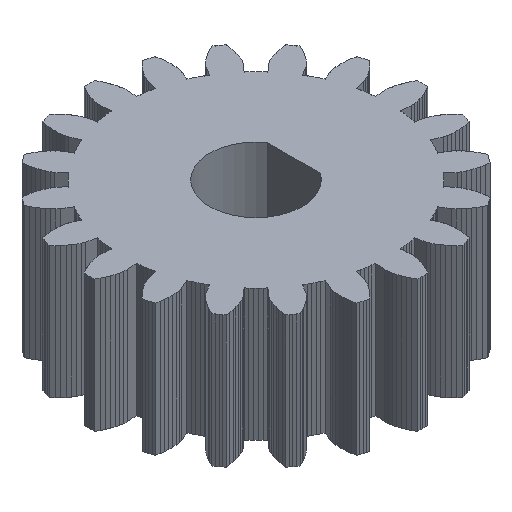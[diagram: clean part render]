
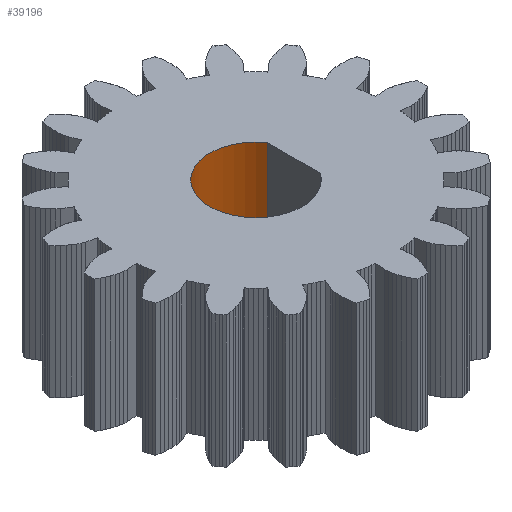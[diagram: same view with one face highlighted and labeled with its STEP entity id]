
A CAD part, isometric view. The second image highlights one B-rep face of the part: STEP entity #39196.
In plain terms, the highlighted cylindrical face has radius 3.05 mm (diameter 6.1 mm), a partial arc.
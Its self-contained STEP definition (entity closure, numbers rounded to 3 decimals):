
#72 = PLANE('',#73);
#73 = AXIS2_PLACEMENT_3D('',#74,#75,#76);
#74 = CARTESIAN_POINT('',(0.,0.,-7.4));
#75 = DIRECTION('',(0.,0.,1.));
#76 = DIRECTION('',(1.,0.,-0.));
#126 = PLANE('',#127);
#127 = AXIS2_PLACEMENT_3D('',#128,#129,#130);
#128 = CARTESIAN_POINT('',(0.,0.,-16.1)
  );
#129 = DIRECTION('',(0.,0.,1.));
#130 = DIRECTION('',(1.,0.,-0.));
#14203 = VERTEX_POINT('',#14204);
#14204 = CARTESIAN_POINT('',(2.5,1.747,-16.1));
#14205 = VERTEX_POINT('',#14206);
#14206 = CARTESIAN_POINT('',(2.5,-1.747,-16.1));
#14220 = PLANE('',#14221);
#14221 = AXIS2_PLACEMENT_3D('',#14222,#14223,#14224);
#14222 = CARTESIAN_POINT('',(2.5,-6.1,-25.3));
#14223 = DIRECTION('',(-1.,0.,0.));
#14224 = DIRECTION('',(0.,1.,0.));
#14232 = EDGE_CURVE('',#14205,#14203,#14233,.T.);
#14233 = SURFACE_CURVE('',#14234,(#14239,#14250),.PCURVE_S1.);
#14234 = CIRCLE('',#14235,3.05);
#14235 = AXIS2_PLACEMENT_3D('',#14236,#14237,#14238);
#14236 = CARTESIAN_POINT('',(0.,0.,-16.1));
#14237 = DIRECTION('',(0.,0.,-1.));
#14238 = DIRECTION('',(1.,0.,0.));
#14239 = PCURVE('',#126,#14240);
#14240 = DEFINITIONAL_REPRESENTATION('',(#14241),#14249);
#14241 = ( BOUNDED_CURVE() B_SPLINE_CURVE(2,(#14242,#14243,#14244,#14245
    ,#14246,#14247,#14248),.UNSPECIFIED.,.T.,.F.) 
B_SPLINE_CURVE_WITH_KNOTS((1,2,2,2,2,1),(-2.094,0.,
    2.094,4.189,6.283,8.378),
.UNSPECIFIED.) CURVE() GEOMETRIC_REPRESENTATION_ITEM() 
RATIONAL_B_SPLINE_CURVE((1.,0.5,1.,0.5,1.,0.5,1.)) REPRESENTATION_ITEM(
  '') );
#14242 = CARTESIAN_POINT('',(3.05,0.));
#14243 = CARTESIAN_POINT('',(3.05,-5.283));
#14244 = CARTESIAN_POINT('',(-1.525,-2.641));
#14245 = CARTESIAN_POINT('',(-6.1,0.));
#14246 = CARTESIAN_POINT('',(-1.525,2.641));
#14247 = CARTESIAN_POINT('',(3.05,5.283));
#14248 = CARTESIAN_POINT('',(3.05,0.));
#14249 = ( GEOMETRIC_REPRESENTATION_CONTEXT(2) 
PARAMETRIC_REPRESENTATION_CONTEXT() REPRESENTATION_CONTEXT('2D SPACE',''
  ) );
#14250 = PCURVE('',#14251,#14256);
#14251 = CYLINDRICAL_SURFACE('',#14252,3.05);
#14252 = AXIS2_PLACEMENT_3D('',#14253,#14254,#14255);
#14253 = CARTESIAN_POINT('',(0.,0.,-16.6));
#14254 = DIRECTION('',(-0.,-0.,-1.));
#14255 = DIRECTION('',(1.,0.,0.));
#14256 = DEFINITIONAL_REPRESENTATION('',(#14257),#14261);
#14257 = LINE('',#14258,#14259);
#14258 = CARTESIAN_POINT('',(-6.283,-0.5));
#14259 = VECTOR('',#14260,1.);
#14260 = DIRECTION('',(1.,-0.));
#14261 = ( GEOMETRIC_REPRESENTATION_CONTEXT(2) 
PARAMETRIC_REPRESENTATION_CONTEXT() REPRESENTATION_CONTEXT('2D SPACE',''
  ) );
#25701 = VERTEX_POINT('',#25702);
#25702 = CARTESIAN_POINT('',(2.5,1.747,-7.4));
#25703 = VERTEX_POINT('',#25704);
#25704 = CARTESIAN_POINT('',(2.5,-1.747,-7.4));
#25725 = EDGE_CURVE('',#25703,#25701,#25726,.T.);
#25726 = SURFACE_CURVE('',#25727,(#25732,#25743),.PCURVE_S1.);
#25727 = CIRCLE('',#25728,3.05);
#25728 = AXIS2_PLACEMENT_3D('',#25729,#25730,#25731);
#25729 = CARTESIAN_POINT('',(0.,0.,-7.4));
#25730 = DIRECTION('',(0.,0.,-1.));
#25731 = DIRECTION('',(1.,0.,0.));
#25732 = PCURVE('',#72,#25733);
#25733 = DEFINITIONAL_REPRESENTATION('',(#25734),#25742);
#25734 = ( BOUNDED_CURVE() B_SPLINE_CURVE(2,(#25735,#25736,#25737,#25738
    ,#25739,#25740,#25741),.UNSPECIFIED.,.T.,.F.) 
B_SPLINE_CURVE_WITH_KNOTS((1,2,2,2,2,1),(-2.094,0.,
    2.094,4.189,6.283,8.378),
.UNSPECIFIED.) CURVE() GEOMETRIC_REPRESENTATION_ITEM() 
RATIONAL_B_SPLINE_CURVE((1.,0.5,1.,0.5,1.,0.5,1.)) REPRESENTATION_ITEM(
  '') );
#25735 = CARTESIAN_POINT('',(3.05,0.));
#25736 = CARTESIAN_POINT('',(3.05,-5.283));
#25737 = CARTESIAN_POINT('',(-1.525,-2.641));
#25738 = CARTESIAN_POINT('',(-6.1,0.));
#25739 = CARTESIAN_POINT('',(-1.525,2.641));
#25740 = CARTESIAN_POINT('',(3.05,5.283));
#25741 = CARTESIAN_POINT('',(3.05,0.));
#25742 = ( GEOMETRIC_REPRESENTATION_CONTEXT(2) 
PARAMETRIC_REPRESENTATION_CONTEXT() REPRESENTATION_CONTEXT('2D SPACE',''
  ) );
#25743 = PCURVE('',#14251,#25744);
#25744 = DEFINITIONAL_REPRESENTATION('',(#25745),#25749);
#25745 = LINE('',#25746,#25747);
#25746 = CARTESIAN_POINT('',(-6.283,-9.2));
#25747 = VECTOR('',#25748,1.);
#25748 = DIRECTION('',(1.,-0.));
#25749 = ( GEOMETRIC_REPRESENTATION_CONTEXT(2) 
PARAMETRIC_REPRESENTATION_CONTEXT() REPRESENTATION_CONTEXT('2D SPACE',''
  ) );
#39153 = EDGE_CURVE('',#25703,#14205,#39154,.T.);
#39154 = SURFACE_CURVE('',#39155,(#39159,#39166),.PCURVE_S1.);
#39155 = LINE('',#39156,#39157);
#39156 = CARTESIAN_POINT('',(2.5,-1.747,-16.6));
#39157 = VECTOR('',#39158,1.);
#39158 = DIRECTION('',(-0.,-0.,-1.));
#39159 = PCURVE('',#14220,#39160);
#39160 = DEFINITIONAL_REPRESENTATION('',(#39161),#39165);
#39161 = LINE('',#39162,#39163);
#39162 = CARTESIAN_POINT('',(4.353,-8.7));
#39163 = VECTOR('',#39164,1.);
#39164 = DIRECTION('',(0.,1.));
#39165 = ( GEOMETRIC_REPRESENTATION_CONTEXT(2) 
PARAMETRIC_REPRESENTATION_CONTEXT() REPRESENTATION_CONTEXT('2D SPACE',''
  ) );
#39166 = PCURVE('',#14251,#39167);
#39167 = DEFINITIONAL_REPRESENTATION('',(#39168),#39172);
#39168 = LINE('',#39169,#39170);
#39169 = CARTESIAN_POINT('',(-5.673,0.));
#39170 = VECTOR('',#39171,1.);
#39171 = DIRECTION('',(-0.,1.));
#39172 = ( GEOMETRIC_REPRESENTATION_CONTEXT(2) 
PARAMETRIC_REPRESENTATION_CONTEXT() REPRESENTATION_CONTEXT('2D SPACE',''
  ) );
#39175 = EDGE_CURVE('',#25701,#14203,#39176,.T.);
#39176 = SURFACE_CURVE('',#39177,(#39181,#39188),.PCURVE_S1.);
#39177 = LINE('',#39178,#39179);
#39178 = CARTESIAN_POINT('',(2.5,1.747,-16.6));
#39179 = VECTOR('',#39180,1.);
#39180 = DIRECTION('',(-0.,-0.,-1.));
#39181 = PCURVE('',#14220,#39182);
#39182 = DEFINITIONAL_REPRESENTATION('',(#39183),#39187);
#39183 = LINE('',#39184,#39185);
#39184 = CARTESIAN_POINT('',(7.847,-8.7));
#39185 = VECTOR('',#39186,1.);
#39186 = DIRECTION('',(0.,1.));
#39187 = ( GEOMETRIC_REPRESENTATION_CONTEXT(2) 
PARAMETRIC_REPRESENTATION_CONTEXT() REPRESENTATION_CONTEXT('2D SPACE',''
  ) );
#39188 = PCURVE('',#14251,#39189);
#39189 = DEFINITIONAL_REPRESENTATION('',(#39190),#39194);
#39190 = LINE('',#39191,#39192);
#39191 = CARTESIAN_POINT('',(-0.61,0.));
#39192 = VECTOR('',#39193,1.);
#39193 = DIRECTION('',(-0.,1.));
#39194 = ( GEOMETRIC_REPRESENTATION_CONTEXT(2) 
PARAMETRIC_REPRESENTATION_CONTEXT() REPRESENTATION_CONTEXT('2D SPACE',''
  ) );
#39196 = ADVANCED_FACE('',(#39197),#14251,.F.);
#39197 = FACE_BOUND('',#39198,.T.);
#39198 = EDGE_LOOP('',(#39199,#39200,#39201,#39202));
#39199 = ORIENTED_EDGE('',*,*,#14232,.T.);
#39200 = ORIENTED_EDGE('',*,*,#39175,.F.);
#39201 = ORIENTED_EDGE('',*,*,#25725,.F.);
#39202 = ORIENTED_EDGE('',*,*,#39153,.T.);
